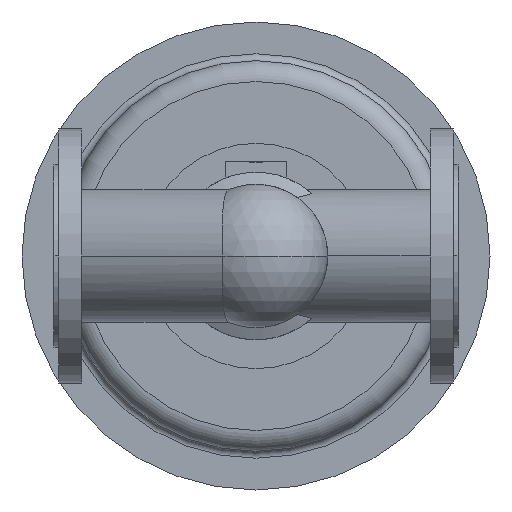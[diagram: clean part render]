
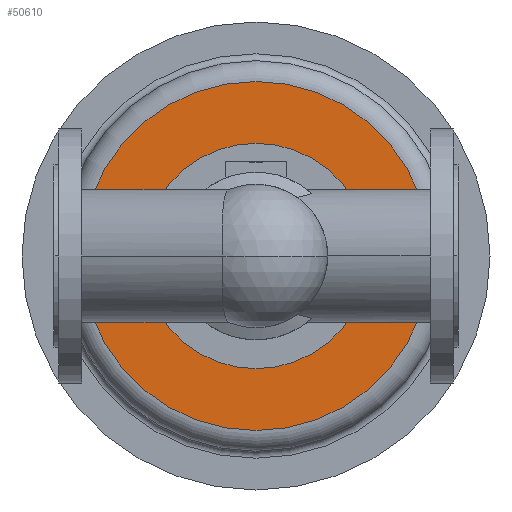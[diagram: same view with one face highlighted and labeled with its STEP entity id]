
A CAD part, front view. The second image highlights one B-rep face of the part: STEP entity #50610.
In plain terms, the highlighted planar face has unit normal (0, -1, 0).
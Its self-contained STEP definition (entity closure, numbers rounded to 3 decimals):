
#50090=CARTESIAN_POINT('',(80.,715.2,0.));
#50100=VERTEX_POINT('',#50090);
#50180=CARTESIAN_POINT('',(270.,715.2,0.));
#50190=VERTEX_POINT('',#50180);
#50220=CARTESIAN_POINT('',(175.,715.2,0.));
#50230=DIRECTION('',(0.,1.,0.));
#50240=DIRECTION('',(1.,0.,0.));
#50250=AXIS2_PLACEMENT_3D('',#50220,#50230,#50240);
#50260=CIRCLE('',#50250,95.);
#50270=EDGE_CURVE('',#50190,#50100,#50260,.T.);
#50320=CARTESIAN_POINT('',(298.,715.2,0.));
#50330=DIRECTION('',(0.,-1.,0.));
#50340=DIRECTION('',(-1.,0.,0.));
#50350=AXIS2_PLACEMENT_3D('',#50320,#50330,#50340);
#50360=PLANE('',#50350);
#50370=CARTESIAN_POINT('',(175.,715.2,0.));
#50380=DIRECTION('',(0.,1.,0.));
#50390=DIRECTION('',(1.,0.,0.));
#50400=AXIS2_PLACEMENT_3D('',#50370,#50380,#50390);
#50410=CIRCLE('',#50400,151.);
#50420=CARTESIAN_POINT('',(175.,715.2,151.));
#50430=VERTEX_POINT('',#50420);
#50440=CARTESIAN_POINT('',(326.,715.2,0.));
#50450=VERTEX_POINT('',#50440);
#50460=EDGE_CURVE('',#50430,#50450,#50410,.T.);
#50470=ORIENTED_EDGE('',*,*,#50460,.F.);
#50480=CARTESIAN_POINT('',(24.,715.2,0.));
#50490=VERTEX_POINT('',#50480);
#50500=EDGE_CURVE('',#50450,#50490,#50410,.T.);
#50510=ORIENTED_EDGE('',*,*,#50500,.F.);
#50520=EDGE_CURVE('',#50490,#50430,#50410,.T.);
#50530=ORIENTED_EDGE('',*,*,#50520,.F.);
#50540=EDGE_LOOP('',(#50530,#50510,#50470));
#50550=FACE_OUTER_BOUND('',#50540,.T.);
#50560=EDGE_CURVE('',#50100,#50190,#50260,.T.);
#50570=ORIENTED_EDGE('',*,*,#50560,.T.);
#50580=ORIENTED_EDGE('',*,*,#50270,.T.);
#50590=EDGE_LOOP('',(#50580,#50570));
#50600=FACE_BOUND('',#50590,.T.);
#50610=ADVANCED_FACE('',(#50550,#50600),#50360,.T.);
